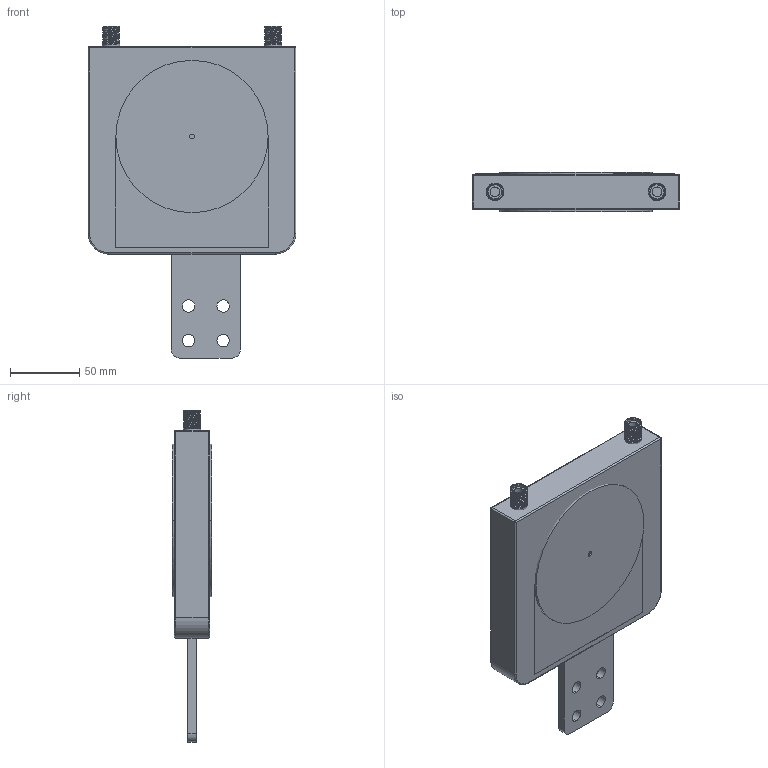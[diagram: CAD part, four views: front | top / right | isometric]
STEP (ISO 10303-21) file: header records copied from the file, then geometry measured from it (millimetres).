
FILE_DESCRIPTION (( 'STEP AP214' ), '1' );
FILE_NAME ('任芲126.STEP', '2025-08-06T15:59:12', ( '' ), ( '' ), 'SwSTEP 2.0', 'SolidWorks 2024', '' );
FILE_SCHEMA (( 'AUTOMOTIVE_DESIGN' ));
Length unit declared in the file: millimetre
Products named in the file (11): ИОЖлого (1); пластик; ЛИРАC (1); ИОЖ_126; крышка верхняя; керамика; шина; нагреватель; крышка нижняя; кастомный_ниппель; корпус
Assembly tree (13 placements, depth 2):
  ИОЖ_126
    корпус
    керамика  x2
    нагреватель  x2
    шина
    пластик
    ИОЖлого (1)
    ЛИРАC (1)
    кастомный_ниппель  x2
    крышка верхняя
    крышка нижняя
Bounding box: 150 x 28.5 x 239.85 mm (x, y, z)
Volume: 911658 mm3; surface area: 340594.6 mm2
Topology: 13 solids, 13 shells, 1109 faces, 2954 edges, 1910 vertices
Faces by surface type: plane 573, cylinder 486, cone 20, torus 20, bspline 6, sphere 4
Entity records: 35621 total; most frequent: CARTESIAN_POINT 8390, DIRECTION 5775, ORIENTED_EDGE 5598, EDGE_CURVE 2799, AXIS2_PLACEMENT_3D 1984, VERTEX_POINT 1811, LINE 1807, VECTOR 1807
